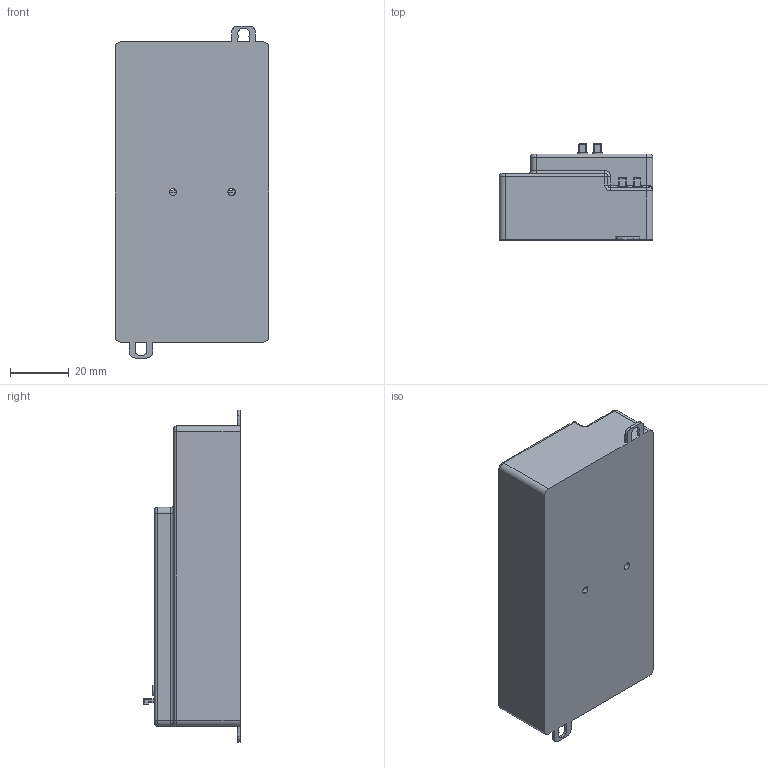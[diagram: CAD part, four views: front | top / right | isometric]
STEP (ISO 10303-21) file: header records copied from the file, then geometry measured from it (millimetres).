
FILE_DESCRIPTION(/* description */ (''),/* implementation_level */ '2;1');
FILE_NAME(/* name */ 'EN16.stp',/* time_stamp */ '2022-01-13T19:34:14+08:00',/* author */ (''),/* organization */ (''),/* preprocessor_version */ 'ST-DEVELOPER v16',/* originating_system */ 'SIEMENS PLM Software NX 10.0',/* authorisation */ '');
FILE_SCHEMA (('AP203_CONFIGURATION_CONTROLLED_3D_DESIGN_OF_MECHANICAL_PARTS_AND_ASSEMBLIES_MIM_LF { 1 0 10303 403 2 1 2}'));
Products named in the file (1): 73494C981A9Cmmas
Bounding box: 52.4 x 32.8 x 113.2 mm (x, y, z)
Volume: 120003.6 mm3; surface area: 58582.5 mm2
Topology: 33 solids, 35 shells, 3935 faces, 10467 edges, 6648 vertices
Faces by surface type: plane 3234, cylinder 577, torus 63, bspline 35, sphere 26
Entity records: 121586 total; most frequent: CARTESIAN_POINT 23140, ORIENTED_EDGE 20888, DIRECTION 19305, EDGE_CURVE 10444, LINE 9067, VECTOR 9067, VERTEX_POINT 6648, AXIS2_PLACEMENT_3D 5119
